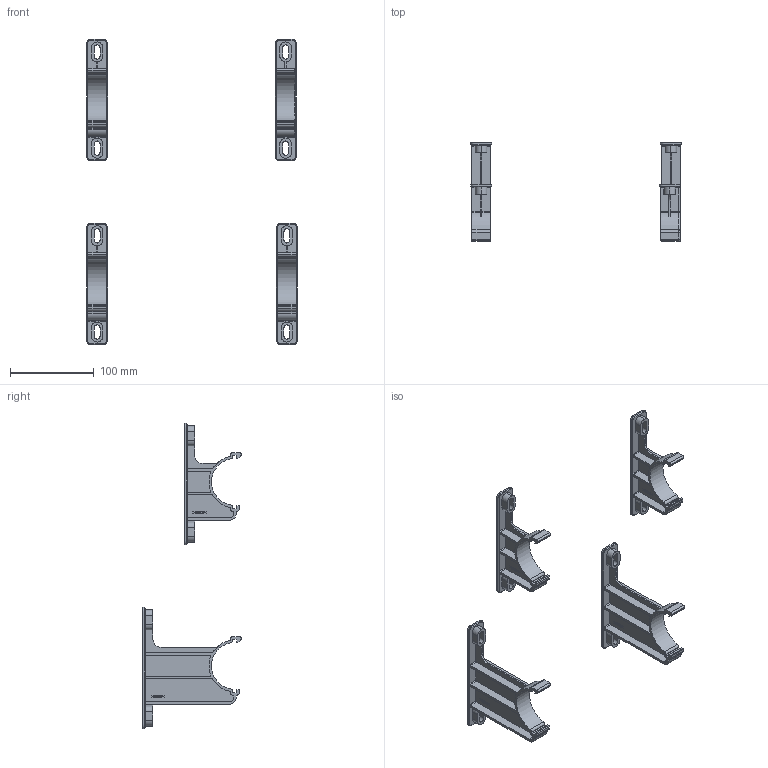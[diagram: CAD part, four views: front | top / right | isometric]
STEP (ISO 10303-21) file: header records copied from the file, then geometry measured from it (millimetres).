
FILE_DESCRIPTION (( 'STEP AP214' ), '1' );
FILE_NAME ('80902.STEP', '2022-11-21T09:55:28', ( '' ), ( '' ), 'SwSTEP 2.0', 'SolidWorks 2022', '' );
FILE_SCHEMA (( 'AUTOMOTIVE_DESIGN' ));
Length unit declared in the file: millimetre
Products named in the file (10): BAUGRUPPE_BAUGRUPPE; WANDHALTER; R_CKLAUF HUB HANDRAD_BAUGRUPPE; VORLAUF ABSP_BAUGRUPPE; 80902; A500100004090WANDHALTER0UNTEN; A500100004080WANDHALTER0OBEN; WANDHALTER FLACH; A5 01 000408_WANDHALTER OBEN; A5 01 000409_WANDHALTER UNTEN
Assembly tree (9 placements, depth 5):
  80902
    BAUGRUPPE_BAUGRUPPE
      VORLAUF ABSP_BAUGRUPPE
        A5 01 000408_WANDHALTER OBEN
        A500100004080WANDHALTER0OBEN
          WANDHALTER FLACH
      R_CKLAUF HUB HANDRAD_BAUGRUPPE
        A5 01 000409_WANDHALTER UNTEN
        A500100004090WANDHALTER0UNTEN
          WANDHALTER
Bounding box: 252 x 117.5 x 365 mm (x, y, z)
Volume: 167629.6 mm3; surface area: 127422.3 mm2
Topology: 4 solids, 4 shells, 948 faces, 2632 edges, 1744 vertices
Faces by surface type: plane 564, cylinder 368, cone 16
Entity records: 41152 total; most frequent: CARTESIAN_POINT 5357, DIRECTION 5306, ORIENTED_EDGE 5264, EDGE_CURVE 2632, VECTOR 1856, LINE 1856, VERTEX_POINT 1744, AXIS2_PLACEMENT_3D 1725
